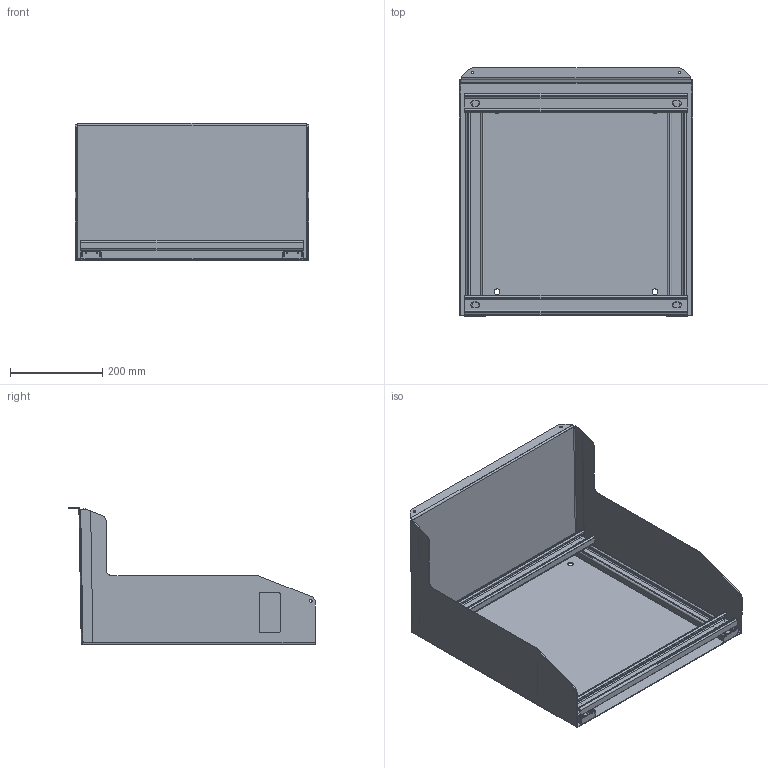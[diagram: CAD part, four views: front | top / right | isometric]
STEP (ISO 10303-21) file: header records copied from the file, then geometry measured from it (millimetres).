
FILE_DESCRIPTION (( 'STEP AP203' ), '1' );
FILE_NAME ('sw2mglwh.STEP', '2015-07-15T21:50:28', ( '' ), ( '' ), 'SwSTEP 2.0', 'SolidWorks 2010', '' );
FILE_SCHEMA (( 'CONFIG_CONTROL_DESIGN' ));
Length unit declared in the file: inch
Products named in the file (5): sw2mglwh; 89122567; 89122568; 89122237; 87780048
Assembly tree (7 placements, depth 3):
  sw2mglwh
    89122567
      89122237  x2
      89122568
    89122237  x2
    87780048
Bounding box: 508 x 538.58 x 298.4 mm (x, y, z)
Volume: 1419464.2 mm3; surface area: 1576864.3 mm2
Topology: 6 solids, 6 shells, 390 faces, 882 edges, 504 vertices
Faces by surface type: plane 264, cylinder 122, bspline 4
Entity records: 6467 total; most frequent: CARTESIAN_POINT 1223, DIRECTION 1000, ORIENTED_EDGE 936, EDGE_CURVE 468, AXIS2_PLACEMENT_3D 341, LINE 318, VECTOR 318, VERTEX_POINT 276
